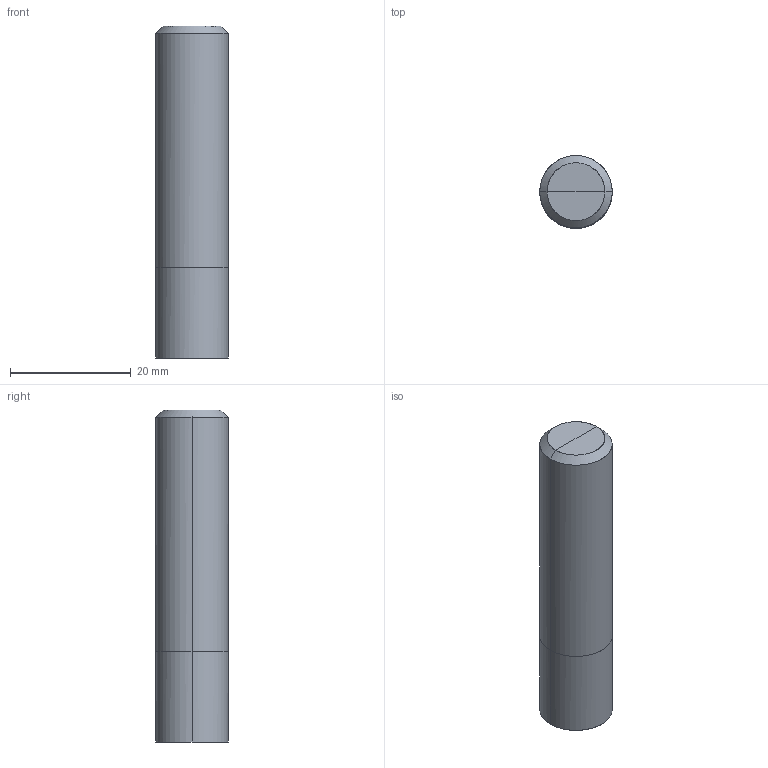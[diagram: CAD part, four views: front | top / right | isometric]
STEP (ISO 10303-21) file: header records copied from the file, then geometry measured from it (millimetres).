
FILE_DESCRIPTION(/* description */ (''),/* implementation_level */ '2;1');
FILE_NAME(/*name*/ '3152-12.0C',/*time_stamp*/'2021-6-22T11:21:1',/*author*/ ('ISBE GmbH'),/*organization*/ ('ISBE GmbH'),/*preprocessor_version*/ 'STEP IO v1.0',/*originating_system*/ '',/*authorisation*/ '');
FILE_SCHEMA (('AUTOMOTIVE_DESIGN'));
Length unit declared in the file: millimetre
Products named in the file (1): Document
Bounding box: 12 x 11.98 x 55 mm (x, y, z)
Surface area: 2501 mm2 (no closed solid volume)
Topology: 0 solids, 14 shells, 14 faces, 59 edges, 54 vertices
Faces by surface type: bspline 14
Entity records: 913 total; most frequent: CARTESIAN_POINT 644, VERTEX_POINT 48, EDGE_CURVE 48, ORIENTED_EDGE 48, DIRECTION 16, EDGE_LOOP 14, FACE_OUTER_BOUND 14, ADVANCED_FACE 14
